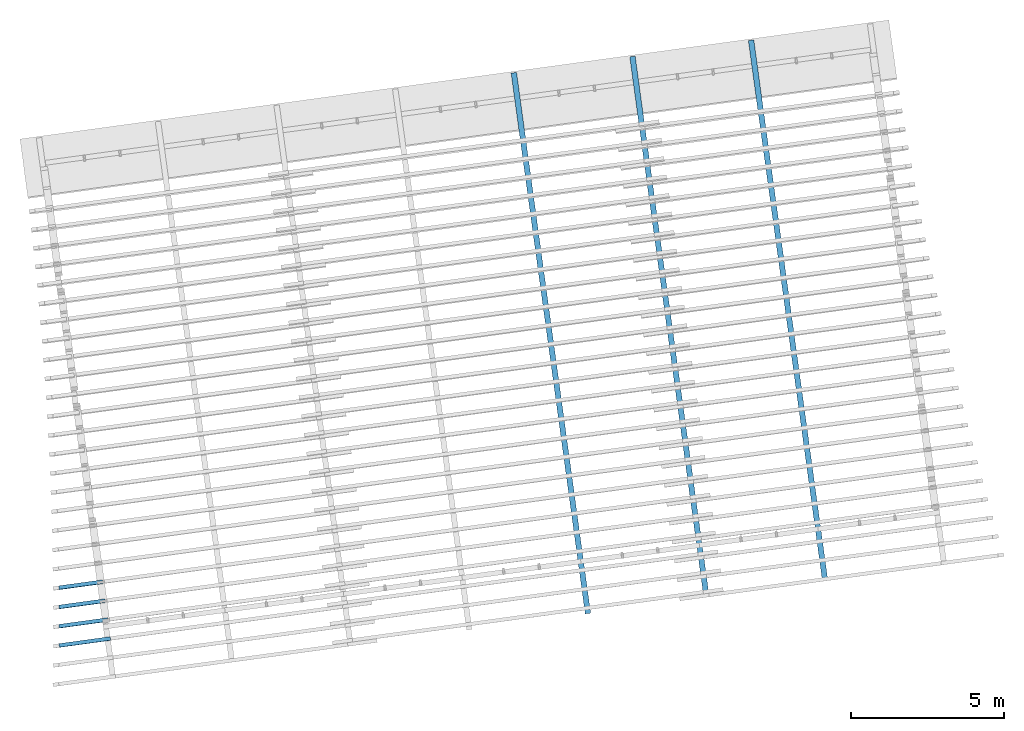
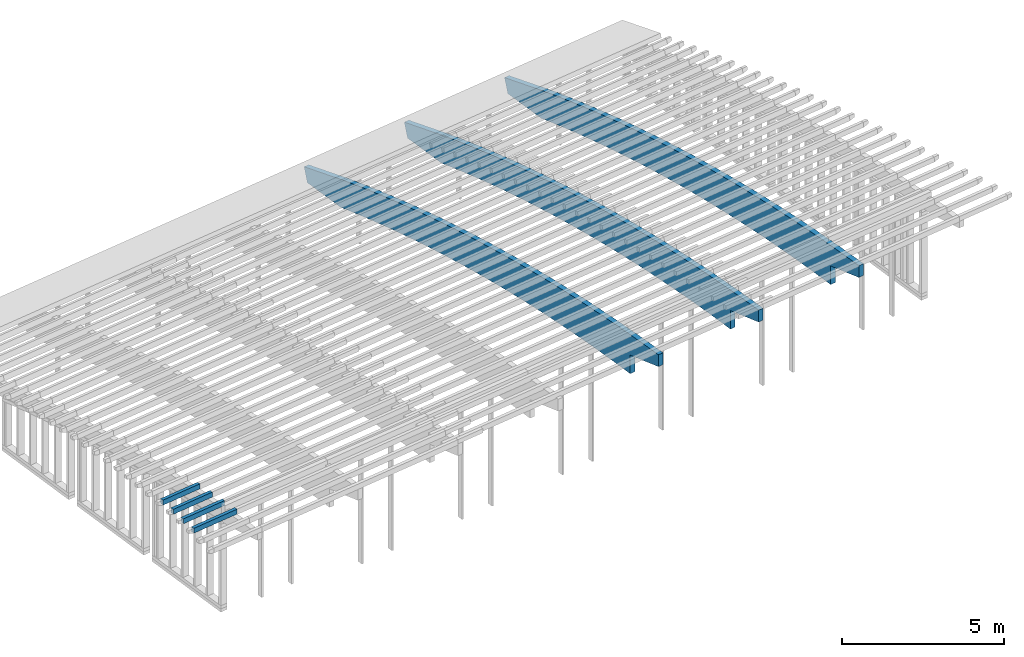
# One storey, part 5 of 18: 4 building element parts, 3 slabs, 4 elements without a shape of their own.
"""IFC2X3 building model written with IfcOpenShell, lengths in metres."""

import ifcopenshell
import ifcopenshell.guid

model = None  # the IFC model being written
_history = None  # IfcOwnerHistory: only IFC2X3 demands one
_inside = {}  # id of a spatial element -> (the spatial element, [elements in it])
_under = {}  # id of a project, library or spatial element -> (it, [spatial elements below it])
_declared = {}  # id of a project -> (the project, [libraries it declares])
_typed = {}  # id of a type object -> (the type object, [elements of that type])
_made_of = {}  # id of a material, layer set ... -> (it, [elements and type objects made of it])


def new_model(schema):
    """Start an empty IFC model of exactly this schema.

    Asked for "IFC4X3", IfcOpenShell would pick the latest addendum, in which some entities
    have other attributes; the version numbers below select the first issue.
    IFC2X3 requires an IfcOwnerHistory on every rooted entity: one is made here for all.
    """
    global model, _history
    if schema == "IFC4X3":
        model = ifcopenshell.file(schema_version=(4, 3, 0, 0))
    else:
        model = ifcopenshell.file(schema=schema)
    _inside.clear()
    _under.clear()
    _declared.clear()
    _typed.clear()
    _made_of.clear()
    _history = None
    if model.schema == "IFC2X3":
        org = make("IfcOrganization", Name="unknown")
        user = make(
            "IfcPersonAndOrganization",
            ThePerson=make("IfcPerson", FamilyName="unknown"),
            TheOrganization=org,
        )
        app = make(
            "IfcApplication",
            ApplicationDeveloper=org,
            Version="unknown",
            ApplicationFullName="unknown",
            ApplicationIdentifier="unknown",
        )
        _history = make(
            "IfcOwnerHistory",
            OwningUser=user,
            OwningApplication=app,
            ChangeAction="ADDED",
            CreationDate=0,
        )
    return model


def make(cls, **values):
    """One entity of the class cls with the attributes given. An attribute that is None is left unset."""
    return model.create_entity(
        cls, **{name: value for name, value in values.items() if value is not None}
    )


def entity(cls, *values):
    """Any entity or typed value of the class cls, its attributes in the order of the schema. None: left unset."""
    e = model.create_entity(cls)
    for i, value in enumerate(values):
        if value is not None:
            e[i] = value
    return e


def rooted(cls, **values):
    """An entity with a GlobalId (a new one), such as an element, a storey or a relation."""
    return make(cls, GlobalId=ifcopenshell.guid.new(), OwnerHistory=_history, **values)


def si_unit(unit_type, name, prefix=None):
    """IfcSIUnit, for example si_unit("LENGTHUNIT", "METRE", prefix="MILLI")."""
    return make("IfcSIUnit", UnitType=unit_type, Prefix=prefix, Name=name)


def converted_unit(unit_type, name, factor, base, dimensions=None, offset=None):
    """IfcConversionBasedUnit, such as the inch: factor (a typed value) times the base unit."""
    return make(
        "IfcConversionBasedUnit"
        if offset is None
        else "IfcConversionBasedUnitWithOffset",
        ConversionOffset=offset,
        Dimensions=None
        if dimensions is None
        else entity("IfcDimensionalExponents", *dimensions),
        UnitType=unit_type,
        Name=name,
        ConversionFactor=make(
            "IfcMeasureWithUnit", ValueComponent=factor, UnitComponent=base
        ),
    )


def derived_unit(unit_type, elements):
    """IfcDerivedUnit: a product of units, each with its exponent."""
    return make(
        "IfcDerivedUnit",
        Elements=[
            make("IfcDerivedUnitElement", Unit=unit, Exponent=power)
            for unit, power in elements
        ],
        UnitType=unit_type,
    )


def money_unit(currency):
    """IfcMonetaryUnit."""
    return make("IfcMonetaryUnit", Currency=currency)


def assignment(units):
    """IfcUnitAssignment: the units of a project."""
    return None if units is None else make("IfcUnitAssignment", Units=units)


def point(xyz):
    """IfcCartesianPoint."""
    return None if xyz is None else make("IfcCartesianPoint", Coordinates=xyz)


def direction(xyz):
    """IfcDirection."""
    return None if xyz is None else make("IfcDirection", DirectionRatios=xyz)


def frame(location, z_axis=None, x_axis=None):
    """IfcAxis2Placement3D, a coordinate frame: its origin and axes. An axis left out is left unset."""
    return make(
        "IfcAxis2Placement3D",
        Location=point(location),
        Axis=direction(z_axis),
        RefDirection=direction(x_axis),
    )


def origin_with_axes():
    """The frame at (0, 0, 0) with the z axis (0, 0, 1) and the x axis (1, 0, 0) written out."""
    return frame((0.0, 0.0, 0.0), z_axis=(0.0, 0.0, 1.0), x_axis=(1.0, 0.0, 0.0))


def place(relative_to, where):
    """IfcLocalPlacement: puts the frame where relative to a parent placement (None: the world)."""
    return make(
        "IfcLocalPlacement", PlacementRelTo=relative_to, RelativePlacement=where
    )


def context(
    kind, dimensions, precision=None, world=None, true_north=None, identifier=None
):
    """IfcGeometricRepresentationContext, for example the 3D "Model" context."""
    return make(
        "IfcGeometricRepresentationContext",
        ContextIdentifier=identifier,
        ContextType=kind,
        CoordinateSpaceDimension=dimensions,
        Precision=precision,
        WorldCoordinateSystem=world,
        TrueNorth=true_north,
    )


def subcontext(parent, identifier, kind, view, scale=None):
    """IfcGeometricRepresentationSubContext, for example "Body" below "Model"."""
    return make(
        "IfcGeometricRepresentationSubContext",
        ContextIdentifier=identifier,
        ContextType=kind,
        ParentContext=parent,
        TargetScale=scale,
        TargetView=view,
    )


def project(units=None, contexts=None):
    """IfcProject with its units and contexts."""
    return rooted(
        "IfcProject",
        Name="project",
        RepresentationContexts=contexts,
        UnitsInContext=assignment(units),
    )


def spatial(cls, under=None, at=None, **own):
    """A site, building, storey or space (cls), placed at a placement, below another one or the project."""
    s = rooted(cls, ObjectPlacement=at, **own)
    if under is not None:
        _under.setdefault(under.id(), (under, []))[1].append(s)
    return s


def faces_of(points, faces, orient=None, outer=None):
    """IfcFace entities. A face is a list of loops; a loop is a list of indices into points, from 0.

    orient and outer hold one flag for each loop. By default every Orientation is true, the
    first loop of a face is its IfcFaceOuterBound and the others are IfcFaceBound.
    """
    made = []
    for i, loops in enumerate(faces):
        bounds = []
        for j, loop in enumerate(loops):
            is_outer = j == 0 if outer is None else outer[i][j]
            bounds.append(
                make(
                    "IfcFaceOuterBound" if is_outer else "IfcFaceBound",
                    Bound=make("IfcPolyLoop", Polygon=[points[k] for k in loop]),
                    Orientation=True if orient is None else orient[i][j],
                )
            )
        made.append(make("IfcFace", Bounds=bounds))
    return made


def faceted_brep(points, faces, orient=None, outer=None, voids=None):
    """IfcFacetedBrep: a solid bounded by flat faces; with voids (closed shells), ...WithVoids."""
    shared = [point(p) for p in points]
    hull = make("IfcClosedShell", CfsFaces=faces_of(shared, faces, orient, outer))
    if voids is None:
        return make("IfcFacetedBrep", Outer=hull)
    return make(
        "IfcFacetedBrepWithVoids",
        Outer=hull,
        Voids=[
            make(cls, CfsFaces=faces_of(shared, fs, o, b)) for cls, fs, o, b in voids
        ],
    )


def shape(context_of_items, identifier, shape_type, items):
    """IfcShapeRepresentation: the items that make up one representation, for example the "Body"."""
    return make(
        "IfcShapeRepresentation",
        ContextOfItems=context_of_items,
        RepresentationIdentifier=identifier,
        RepresentationType=shape_type,
        Items=items,
    )


def material(Name=None, Category=None):
    """IfcMaterial."""
    return make("IfcMaterial", Name=Name, Category=Category)


def made_of(thing, what):
    """Note that an element or type object is made of a material, layer set ...; save() writes the relation."""
    if what is not None:
        _made_of.setdefault(what.id(), (what, []))[1].append(thing)
    return thing


def type_object(cls, material=None, **own):
    """A type object (cls), such as IfcWallType, which elements share."""
    return made_of(rooted(cls, **own), material)


def element(
    cls,
    number,
    at=None,
    inside=None,
    cuts=None,
    type_object=None,
    material=None,
    context=None,
    identifier="Body",
    shape_type=None,
    held_by="IfcProductDefinitionShape",
    body=None,
    shapes=None,
    **own,
):
    """One element of the class cls, such as IfcWall. Its Tag is "e" and its number.

    at: its placement. inside: the storey or other place that contains it. cuts: it is an
    opening in that element (IfcRelVoidsElement). A single representation is given by context,
    identifier, shape_type and body (its items); several are given by shapes. held_by: the class
    of the entity that holds the representations. save() writes the other relations.
    """
    e = rooted(cls, Tag="e%d" % number, ObjectPlacement=at, **own)
    if body is not None:
        shapes = [shape(context, identifier, shape_type, body)]
    if shapes is not None:
        e.Representation = make(held_by, Representations=shapes)
    if inside is not None:
        _inside.setdefault(inside.id(), (inside, []))[1].append(e)
    if cuts is not None:
        rooted(
            "IfcRelVoidsElement", RelatingBuildingElement=cuts, RelatedOpeningElement=e
        )
    if type_object is not None:
        _typed.setdefault(type_object.id(), (type_object, []))[1].append(e)
    return made_of(e, material)


def aggregate(whole, parts):
    """IfcRelAggregates: a whole, such as a stair, and the parts it consists of."""
    return rooted("IfcRelAggregates", RelatingObject=whole, RelatedObjects=parts)


def save(model, path):
    """Write the relations noted so far, then the file.

    IfcRelAggregates (storeys below a building ...), IfcRelContainedInSpatialStructure (elements
    in a storey), IfcRelDefinesByType, IfcRelAssociatesMaterial and IfcRelDeclares: one each for
    every whole, place, type object, material and project.
    """
    for whole, parts in _under.values():
        aggregate(whole, parts)
    for where, things in _inside.values():
        rooted(
            "IfcRelContainedInSpatialStructure",
            RelatedElements=things,
            RelatingStructure=where,
        )
    for kind, things in _typed.values():
        rooted("IfcRelDefinesByType", RelatedObjects=things, RelatingType=kind)
    for what, things in _made_of.values():
        rooted("IfcRelAssociatesMaterial", RelatedObjects=things, RelatingMaterial=what)
    for by, libraries in _declared.values():
        rooted("IfcRelDeclares", RelatingContext=by, RelatedDefinitions=libraries)
    model.write(path)


model = new_model("IFC2X3")

# Units and contexts
model_context = context("Model", 3, precision=1e-05, world=origin_with_axes(), true_north=direction((0.0, 1.0)))
body_context = subcontext(model_context, "Body", "Model", "MODEL_VIEW")
ifc_project = project(units=[si_unit("LENGTHUNIT", "METRE"), si_unit("AREAUNIT", "SQUARE_METRE"), si_unit("VOLUMEUNIT", "CUBIC_METRE"), converted_unit("PLANEANGLEUNIT", "DEGREE", entity("IfcPlaneAngleMeasure", 0.0174532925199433), si_unit("PLANEANGLEUNIT", "RADIAN"), dimensions=[0, 0, 0, 0, 0, 0, 0]), money_unit("EUR"), converted_unit("TIMEUNIT", "Year", entity("IfcTimeMeasure", 31557600.0), si_unit("TIMEUNIT", "SECOND"), dimensions=[0, 0, 1, 0, 0, 0, 0]), si_unit("MASSUNIT", "GRAM", prefix="KILO"), si_unit("THERMODYNAMICTEMPERATUREUNIT", "DEGREE_CELSIUS"), si_unit("LUMINOUSINTENSITYUNIT", "LUMEN"), si_unit("ENERGYUNIT", "JOULE", prefix="MEGA"), derived_unit("THERMALCONDUCTANCEUNIT", [(si_unit("POWERUNIT", "WATT"), 1), (si_unit("LENGTHUNIT", "METRE"), -1), (si_unit("THERMODYNAMICTEMPERATUREUNIT", "KELVIN"), -1)]), derived_unit("SPECIFICHEATCAPACITYUNIT", [(si_unit("ENERGYUNIT", "JOULE"), 1), (si_unit("MASSUNIT", "GRAM", prefix="KILO"), -1), (si_unit("THERMODYNAMICTEMPERATUREUNIT", "KELVIN"), -1)]), derived_unit("MASSDENSITYUNIT", [(si_unit("MASSUNIT", "GRAM", prefix="KILO"), 1), (si_unit("VOLUMEUNIT", "CUBIC_METRE"), -1)])], contexts=[model_context])

# Site, building, storey
site_placement = place(None, origin_with_axes())
site = spatial("IfcSite", under=ifc_project, at=site_placement, Name="Gelände", CompositionType="ELEMENT")
building_placement = place(site_placement, origin_with_axes())
building = spatial("IfcBuilding", under=site, at=building_placement, Name="Gebäude", CompositionType="ELEMENT")
storey_placement = place(building_placement, frame((0.0, 0.0, 5.5), z_axis=(0.0, 0.0, 1.0), x_axis=(1.0, 0.0, 0.0)))
storey = spatial("IfcBuildingStorey", under=building, at=storey_placement, Name="OG", CompositionType="ELEMENT", Elevation=5.5)

# Slabs
ifc_material_1 = material(Name="Holz, Brettschichtholz")
slab_type = type_object("IfcSlabType", Name="Holz, Brettschichtholz", PredefinedType="FLOOR")
slab_1_placement = place(storey_placement, frame((95.37336688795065, -23.81520264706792, 163.5688041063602), z_axis=(-0.9907484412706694, -0.1357111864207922, 0.0), x_axis=(0.1344556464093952, -0.9815824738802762, -0.1357111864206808)))
element("IfcSlab", 1, at=slab_1_placement, inside=storey, type_object=slab_type, material=ifc_material_1, Name="Decke-018", PredefinedType="FLOOR", context=body_context, shape_type="Brep", body=[
    faceted_brep([(129.8131057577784, -145.7732572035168, 6.320000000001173), (131.4832013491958, -145.5444900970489, 6.320000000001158), (131.4832013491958, -145.5444900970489, 6.500000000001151), (129.8131057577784, -145.7732572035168, 6.50000000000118), (129.5825010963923, -145.2883496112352, 6.320000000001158), (131.4068356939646, -144.4693910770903, 6.32000000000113), (131.4389592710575, -144.4542429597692, 6.320000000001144), (132.1622788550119, -144.1494844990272, 6.320000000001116), (132.8894236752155, -143.8539691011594, 6.320000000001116), (133.6202756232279, -143.567744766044, 6.320000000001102), (134.3547159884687, -143.2908579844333, 6.320000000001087), (135.0926254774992, -143.0233537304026, 6.320000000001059), (135.8338842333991, -142.7652754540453, 6.320000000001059), (136.5783718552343, -142.5166650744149, 6.320000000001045), (137.3259674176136, -142.2775629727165, 6.320000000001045), (138.0765494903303, -142.0480079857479, 6.320000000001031), (138.8299961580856, -141.8280373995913, 6.320000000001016), (139.5861850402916, -141.6176869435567, 6.320000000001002), (140.3449933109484, -141.4169907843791, 6.320000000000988), (141.1062977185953, -141.2259815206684, 6.320000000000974), (141.8699746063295, -141.0446901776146, 6.320000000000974), (142.6358999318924, -140.8731462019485, 6.320000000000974), (143.4039492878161, -140.7113774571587, 6.320000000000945), (144.1739979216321, -140.5594102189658, 6.320000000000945), (144.9459207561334, -140.4172691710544, 6.320000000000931), (145.7195924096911, -140.2849774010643, 6.320000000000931), (146.4948872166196, -140.1625563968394, 6.320000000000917), (146.8832832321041, -140.1062912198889, 6.320000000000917), (146.9438843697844, -140.5487053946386, 6.320000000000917), (145.585697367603, -141.0897907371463, 6.320000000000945), (145.6807822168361, -141.7839507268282, 6.320000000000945), (145.2350839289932, -141.8450261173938, 6.320000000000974), (145.2351117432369, -141.8452290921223, 6.320000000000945), (144.8608247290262, -141.8982971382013, 6.32000000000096), (144.113346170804, -142.0118746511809, 6.320000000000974), (143.3674369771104, -142.1353574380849, 6.320000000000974), (142.6232287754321, -142.2687238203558, 6.320000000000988), (141.8808528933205, -142.4119503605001, 6.320000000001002), (141.1404403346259, -142.5650118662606, 6.320000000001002), (140.4021217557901, -142.7278813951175, 6.320000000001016), (139.6660274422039, -142.9005302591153, 6.320000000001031), (138.9322872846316, -143.0829280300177, 6.320000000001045), (138.2010307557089, -143.2750425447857, 6.320000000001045), (137.4723868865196, -143.4768399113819, 6.320000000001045), (136.7464842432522, -143.6882845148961, 6.320000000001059), (136.0234509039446, -143.9093390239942, 6.320000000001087), (135.3034144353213, -144.1399643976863, 6.320000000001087), (134.5865018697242, -144.3801198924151, 6.320000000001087), (133.8728396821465, -144.6297630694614, 6.320000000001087), (133.1625537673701, -144.8888498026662, 6.320000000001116), (132.4557694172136, -145.1573342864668, 6.32000000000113), (131.7526112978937, -145.4351690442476, 6.320000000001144), (131.7521814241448, -145.4341018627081, 6.500000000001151), (129.5825010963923, -145.2883496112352, 6.500000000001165), (132.4554403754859, -145.1564850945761, 6.500000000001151), (133.1623099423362, -144.8881948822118, 6.500000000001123), (133.8726664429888, -144.6292781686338, 6.500000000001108), (134.5863855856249, -144.3797802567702, 6.500000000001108), (135.3033424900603, -144.1397448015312, 6.500000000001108), (136.0234117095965, -143.9092138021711, 6.50000000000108), (136.7464672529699, -143.6882275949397, 6.50000000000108), (137.4723826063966, -143.4768248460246, 6.500000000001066), (138.2010307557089, -143.2750425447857, 6.500000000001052), (138.9322842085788, -143.082915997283, 6.500000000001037), (139.6660150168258, -142.9004788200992, 6.500000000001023), (140.4020947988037, -142.7277629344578, 6.500000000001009), (141.140394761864, -142.5647985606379, 6.500000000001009), (141.880785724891, -142.411614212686, 6.500000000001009), (142.6231381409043, -142.2682366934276, 6.500000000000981), (143.3673221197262, -142.1346910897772, 6.500000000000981), (144.1132074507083, -142.0110007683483, 6.500000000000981), (144.860663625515, -141.8971873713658, 6.500000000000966), (145.2351117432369, -141.8452290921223, 6.500000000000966), (145.2350839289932, -141.8450261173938, 6.500000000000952), (145.6807822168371, -141.7839507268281, 6.500000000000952), (145.585697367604, -141.089790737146, 6.500000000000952), (146.9438843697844, -140.5487053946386, 6.500000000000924), (146.8832832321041, -140.106291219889, 6.500000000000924), (146.4950582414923, -140.1636882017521, 6.500000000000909), (145.7197458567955, -140.2859119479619, 6.500000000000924), (144.9460548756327, -140.4180254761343, 6.500000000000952), (144.1741116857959, -140.5600072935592, 6.500000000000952), (143.4040423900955, -140.711834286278, 6.500000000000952), (142.6359727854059, -140.8734817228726, 6.500000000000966), (141.8700283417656, -141.0449232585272, 6.500000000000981), (141.1063341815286, -141.2261309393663, 6.500000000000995), (140.3450150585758, -141.4170752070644, 6.500000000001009), (139.5861953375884, -141.6177249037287, 6.500000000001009), (138.829998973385, -141.8280472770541, 6.500000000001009), (138.0765494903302, -142.0480079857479, 6.500000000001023), (137.3259699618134, -142.2775711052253, 6.500000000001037), (136.578382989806, -142.5166991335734, 6.500000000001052), (135.8339106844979, -142.7653529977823, 6.500000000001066), (135.0926746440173, -143.0234920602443, 6.50000000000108), (134.3547959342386, -143.2910741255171, 6.50000000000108), (133.62039506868, -143.5680554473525, 6.500000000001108), (132.8895919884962, -143.8543907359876, 6.500000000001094), (132.1625060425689, -144.1500331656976, 6.500000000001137), (131.4392559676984, -144.4549343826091, 6.500000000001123), (131.406642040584, -144.4689405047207, 6.500000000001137)], [[[0, 1, 2, 3]], [[0, 4, 5, 6, 7, 8, 9, 10, 11, 12, 13, 14, 15, 16, 17, 18, 19, 20, 21, 22, 23, 24, 25, 26, 27, 28, 29, 30, 31, 32, 33, 34, 35, 36, 37, 38, 39, 40, 41, 42, 43, 44, 45, 46, 47, 48, 49, 50, 51, 1]], [[2, 1, 52]], [[53, 3, 2, 52, 54, 55, 56, 57, 58, 59, 60, 61, 62, 63, 64, 65, 66, 67, 68, 69, 70, 71, 72, 73, 74, 75, 76, 77, 78, 79, 80, 81, 82, 83, 84, 85, 86, 87, 88, 89, 90, 91, 92, 93, 94, 95, 96, 97, 98, 99]], [[4, 0, 3, 53]], [[4, 53, 5]], [[6, 5, 99]], [[7, 6, 98]], [[8, 7, 97]], [[9, 8, 96]], [[10, 9, 95]], [[11, 10, 93]], [[12, 11, 93]], [[12, 92, 13]], [[14, 13, 91, 90]], [[15, 14, 90, 89]], [[16, 15, 89, 88]], [[17, 16, 88]], [[18, 17, 87]], [[19, 18, 86]], [[20, 19, 85]], [[21, 20, 84]], [[22, 21, 83]], [[23, 22, 81]], [[24, 23, 81]], [[24, 80, 25]], [[26, 25, 79]], [[27, 26, 78, 77]], [[76, 28, 27, 77]], [[75, 29, 28, 76]], [[30, 29, 75, 74]], [[31, 30, 74, 73]], [[32, 31, 73, 72]], [[33, 32, 72]], [[34, 33, 71]], [[69, 35, 34]], [[68, 36, 35]], [[37, 36, 68]], [[38, 37, 67]], [[39, 38, 66]], [[40, 39, 65]], [[41, 40, 64]], [[42, 41, 63, 62]], [[61, 43, 42, 62]], [[44, 43, 61]], [[45, 44, 60]], [[46, 45, 59]], [[47, 46, 58]], [[56, 48, 47]], [[49, 48, 55]], [[50, 49, 55]], [[51, 50, 54]], [[1, 51, 52]], [[52, 51, 54]], [[54, 50, 55]], [[48, 56, 55]], [[47, 57, 56]], [[57, 47, 58]], [[58, 46, 59]], [[59, 45, 60]], [[60, 44, 61]], [[63, 41, 64]], [[64, 40, 65]], [[65, 39, 66]], [[66, 38, 67]], [[67, 37, 68]], [[69, 68, 35]], [[34, 70, 69]], [[70, 34, 71]], [[71, 33, 72]], [[78, 26, 79]], [[80, 79, 25]], [[80, 24, 81]], [[22, 82, 81]], [[22, 83, 82]], [[21, 84, 83]], [[20, 85, 84]], [[86, 85, 19]], [[86, 18, 87]], [[87, 17, 88]], [[92, 91, 13]], [[92, 12, 93]], [[10, 94, 93]], [[95, 94, 10]], [[95, 9, 96]], [[96, 8, 97]], [[98, 97, 7]], [[98, 6, 99]], [[5, 53, 99]]]),
])
slab_2_placement = place(storey_placement, frame((99.25143935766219, -23.28399028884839, 163.5688041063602), z_axis=(-0.9907484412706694, -0.1357111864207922, 0.0), x_axis=(0.1344556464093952, -0.9815824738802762, -0.1357111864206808)))
element("IfcSlab", 2, at=slab_2_placement, inside=storey, type_object=slab_type, material=ifc_material_1, Name="Decke-018", PredefinedType="FLOOR", context=body_context, shape_type="Brep", body=[
    faceted_brep([(129.8131057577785, -145.7732572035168, 6.320000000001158), (131.4832013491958, -145.5444900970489, 6.320000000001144), (131.4832013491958, -145.5444900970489, 6.500000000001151), (129.8131057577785, -145.7732572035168, 6.500000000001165), (129.5825010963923, -145.2883496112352, 6.320000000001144), (131.4068356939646, -144.4693910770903, 6.320000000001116), (131.4389592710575, -144.4542429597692, 6.320000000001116), (132.1622788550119, -144.1494844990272, 6.320000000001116), (132.8894236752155, -143.8539691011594, 6.320000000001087), (133.6202756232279, -143.567744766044, 6.320000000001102), (134.3547159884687, -143.2908579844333, 6.320000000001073), (135.0926254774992, -143.0233537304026, 6.320000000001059), (135.8338842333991, -142.7652754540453, 6.320000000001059), (136.5783718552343, -142.5166650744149, 6.320000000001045), (137.3259674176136, -142.2775629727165, 6.320000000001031), (138.0765494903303, -142.0480079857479, 6.320000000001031), (138.8299961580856, -141.8280373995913, 6.320000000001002), (139.5861850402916, -141.6176869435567, 6.320000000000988), (140.3449933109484, -141.4169907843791, 6.320000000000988), (141.1062977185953, -141.2259815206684, 6.320000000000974), (141.8699746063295, -141.0446901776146, 6.32000000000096), (142.6358999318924, -140.8731462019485, 6.32000000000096), (143.4039492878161, -140.7113774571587, 6.32000000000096), (144.1739979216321, -140.5594102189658, 6.320000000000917), (144.9459207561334, -140.4172691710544, 6.320000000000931), (145.7195924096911, -140.2849774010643, 6.320000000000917), (146.4948872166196, -140.1625563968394, 6.320000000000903), (146.8832832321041, -140.1062912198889, 6.320000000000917), (146.9438843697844, -140.5487053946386, 6.320000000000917), (145.5856973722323, -141.089790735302, 6.320000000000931), (145.6807822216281, -141.7839507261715, 6.320000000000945), (145.2350839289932, -141.8450261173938, 6.320000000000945), (145.2351117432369, -141.8452290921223, 6.320000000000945), (144.8608247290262, -141.8982971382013, 6.320000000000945), (144.113346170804, -142.0118746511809, 6.32000000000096), (143.3674369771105, -142.1353574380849, 6.320000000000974), (142.6232287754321, -142.2687238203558, 6.320000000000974), (141.8808528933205, -142.4119503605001, 6.320000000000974), (141.1404403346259, -142.5650118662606, 6.320000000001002), (140.4021217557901, -142.7278813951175, 6.320000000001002), (139.666027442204, -142.9005302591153, 6.320000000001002), (138.9322872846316, -143.0829280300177, 6.320000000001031), (138.201030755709, -143.2750425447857, 6.320000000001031), (137.4723868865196, -143.4768399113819, 6.320000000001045), (136.7464842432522, -143.6882845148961, 6.320000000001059), (136.0234509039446, -143.9093390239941, 6.320000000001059), (135.3034144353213, -144.1399643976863, 6.320000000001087), (134.5865018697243, -144.3801198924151, 6.320000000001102), (133.8728396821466, -144.6297630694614, 6.320000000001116), (133.1625537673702, -144.8888498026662, 6.320000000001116), (132.4557694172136, -145.1573342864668, 6.320000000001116), (131.7526112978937, -145.4351690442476, 6.320000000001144), (131.7521814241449, -145.4341018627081, 6.500000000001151), (129.5825010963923, -145.2883496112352, 6.500000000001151), (132.455440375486, -145.1564850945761, 6.500000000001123), (133.1623099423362, -144.8881948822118, 6.500000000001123), (133.8726664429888, -144.6292781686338, 6.500000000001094), (134.5863855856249, -144.3797802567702, 6.500000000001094), (135.3033424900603, -144.1397448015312, 6.500000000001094), (136.0234117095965, -143.9092138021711, 6.500000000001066), (136.7464672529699, -143.6882275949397, 6.500000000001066), (137.4723826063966, -143.4768248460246, 6.500000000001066), (138.2010307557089, -143.2750425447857, 6.500000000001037), (138.9322842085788, -143.082915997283, 6.500000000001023), (139.6660150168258, -142.9004788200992, 6.500000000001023), (140.4020947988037, -142.7277629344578, 6.500000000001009), (141.1403947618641, -142.5647985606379, 6.500000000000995), (141.880785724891, -142.411614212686, 6.500000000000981), (142.6231381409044, -142.2682366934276, 6.500000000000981), (143.3673221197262, -142.1346910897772, 6.500000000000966), (144.1132074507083, -142.0110007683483, 6.500000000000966), (144.8606636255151, -141.8971873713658, 6.500000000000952), (145.2351117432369, -141.8452290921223, 6.500000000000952), (145.2350839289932, -141.8450261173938, 6.500000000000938), (145.6807822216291, -141.7839507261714, 6.500000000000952), (145.5856973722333, -141.0897907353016, 6.500000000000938), (146.9438843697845, -140.5487053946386, 6.500000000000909), (146.8832832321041, -140.106291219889, 6.500000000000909), (146.4950582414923, -140.1636882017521, 6.500000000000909), (145.7197458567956, -140.2859119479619, 6.500000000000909), (144.9460548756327, -140.4180254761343, 6.500000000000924), (144.1741116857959, -140.5600072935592, 6.500000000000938), (143.4040423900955, -140.711834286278, 6.500000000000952), (142.6359727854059, -140.8734817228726, 6.500000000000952), (141.8700283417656, -141.0449232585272, 6.500000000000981), (141.1063341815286, -141.2261309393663, 6.500000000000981), (140.3450150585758, -141.4170752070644, 6.500000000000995), (139.5861953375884, -141.6177249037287, 6.500000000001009), (138.8299989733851, -141.8280472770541, 6.500000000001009), (138.0765494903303, -142.0480079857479, 6.500000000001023), (137.3259699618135, -142.2775711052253, 6.500000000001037), (136.5783829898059, -142.5166991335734, 6.500000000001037), (135.8339106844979, -142.7653529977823, 6.500000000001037), (135.0926746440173, -143.0234920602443, 6.500000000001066), (134.3547959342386, -143.2910741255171, 6.50000000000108), (133.62039506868, -143.5680554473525, 6.500000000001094), (132.8895919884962, -143.8543907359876, 6.500000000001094), (132.1625060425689, -144.1500331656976, 6.500000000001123), (131.4392559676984, -144.4549343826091, 6.500000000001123), (131.406642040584, -144.4689405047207, 6.500000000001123)], [[[0, 1, 2, 3]], [[0, 4, 5, 6, 7, 8, 9, 10, 11, 12, 13, 14, 15, 16, 17, 18, 19, 20, 21, 22, 23, 24, 25, 26, 27, 28, 29, 30, 31, 32, 33, 34, 35, 36, 37, 38, 39, 40, 41, 42, 43, 44, 45, 46, 47, 48, 49, 50, 51, 1]], [[2, 1, 52]], [[53, 3, 2, 52, 54, 55, 56, 57, 58, 59, 60, 61, 62, 63, 64, 65, 66, 67, 68, 69, 70, 71, 72, 73, 74, 75, 76, 77, 78, 79, 80, 81, 82, 83, 84, 85, 86, 87, 88, 89, 90, 91, 92, 93, 94, 95, 96, 97, 98, 99]], [[4, 0, 3, 53]], [[4, 53, 5]], [[6, 5, 99]], [[7, 6, 98]], [[8, 7, 97]], [[9, 8, 96]], [[10, 9, 95]], [[11, 10, 93]], [[12, 11, 93]], [[12, 92, 13]], [[14, 13, 91, 90]], [[15, 14, 90, 89]], [[16, 15, 89, 88]], [[17, 16, 88]], [[18, 17, 87]], [[19, 18, 86]], [[20, 19, 85]], [[21, 20, 84]], [[22, 21, 83]], [[23, 22, 81]], [[24, 23, 81]], [[24, 80, 25]], [[26, 25, 79]], [[27, 26, 78, 77]], [[76, 28, 27, 77]], [[75, 29, 28, 76]], [[30, 29, 75, 74]], [[31, 30, 74, 73]], [[32, 31, 73, 72]], [[33, 32, 72]], [[34, 33, 71]], [[69, 35, 34]], [[68, 36, 35]], [[37, 36, 68]], [[38, 37, 67]], [[39, 38, 66]], [[40, 39, 65]], [[41, 40, 64]], [[42, 41, 63, 62]], [[61, 43, 42, 62]], [[44, 43, 61]], [[45, 44, 60]], [[46, 45, 59]], [[47, 46, 58]], [[56, 48, 47]], [[49, 48, 55]], [[50, 49, 55]], [[51, 50, 54]], [[1, 51, 52]], [[52, 51, 54]], [[54, 50, 55]], [[48, 56, 55]], [[47, 57, 56]], [[57, 47, 58]], [[58, 46, 59]], [[59, 45, 60]], [[60, 44, 61]], [[63, 41, 64]], [[64, 40, 65]], [[65, 39, 66]], [[66, 38, 67]], [[67, 37, 68]], [[69, 68, 35]], [[34, 70, 69]], [[70, 34, 71]], [[71, 33, 72]], [[78, 26, 79]], [[80, 79, 25]], [[80, 24, 81]], [[22, 82, 81]], [[22, 83, 82]], [[21, 84, 83]], [[20, 85, 84]], [[86, 85, 19]], [[86, 18, 87]], [[87, 17, 88]], [[92, 91, 13]], [[92, 12, 93]], [[10, 94, 93]], [[95, 94, 10]], [[95, 9, 96]], [[96, 8, 97]], [[98, 97, 7]], [[98, 6, 99]], [[5, 53, 99]]]),
])
slab_3_placement = place(storey_placement, frame((91.495294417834, -24.34641500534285, 163.5688041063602), z_axis=(-0.9907484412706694, -0.1357111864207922, 0.0), x_axis=(0.1344556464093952, -0.9815824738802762, -0.1357111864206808)))
element("IfcSlab", 3, at=slab_3_placement, inside=storey, type_object=slab_type, material=ifc_material_1, Name="Decke-018", PredefinedType="FLOOR", context=body_context, shape_type="Brep", body=[
    faceted_brep([(129.8131057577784, -145.7732572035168, 6.320000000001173), (131.4832013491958, -145.5444900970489, 6.320000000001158), (131.4832013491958, -145.5444900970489, 6.500000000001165), (129.8131057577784, -145.7732572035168, 6.50000000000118), (129.5825010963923, -145.2883496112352, 6.320000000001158), (131.4068356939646, -144.4693910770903, 6.32000000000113), (131.4389592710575, -144.4542429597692, 6.32000000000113), (132.1622788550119, -144.1494844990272, 6.320000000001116), (132.8894236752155, -143.8539691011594, 6.320000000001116), (133.6202756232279, -143.5677447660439, 6.320000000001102), (134.3547159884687, -143.2908579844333, 6.320000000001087), (135.0926254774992, -143.0233537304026, 6.320000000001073), (135.8338842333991, -142.7652754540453, 6.320000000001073), (136.5783718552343, -142.5166650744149, 6.320000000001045), (137.3259674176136, -142.2775629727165, 6.320000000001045), (138.0765494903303, -142.0480079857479, 6.320000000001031), (138.8299961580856, -141.8280373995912, 6.320000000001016), (139.5861850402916, -141.6176869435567, 6.320000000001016), (140.3449933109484, -141.4169907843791, 6.320000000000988), (141.1062977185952, -141.2259815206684, 6.320000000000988), (141.8699746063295, -141.0446901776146, 6.320000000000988), (142.6358999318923, -140.8731462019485, 6.320000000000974), (143.4039492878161, -140.7113774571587, 6.320000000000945), (144.1739979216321, -140.5594102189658, 6.320000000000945), (144.9459207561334, -140.4172691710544, 6.320000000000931), (145.7195924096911, -140.2849774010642, 6.320000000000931), (146.4948872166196, -140.1625563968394, 6.320000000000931), (146.8832832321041, -140.1062912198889, 6.320000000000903), (146.9438843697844, -140.5487053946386, 6.320000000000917), (145.5856973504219, -141.089790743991, 6.320000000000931), (145.6807821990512, -141.7839507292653, 6.32000000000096), (145.2350839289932, -141.8450261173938, 6.32000000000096), (145.2351117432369, -141.8452290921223, 6.320000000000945), (144.8608247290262, -141.8982971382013, 6.32000000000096), (144.113346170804, -142.0118746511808, 6.320000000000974), (143.3674369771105, -142.1353574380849, 6.320000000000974), (142.6232287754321, -142.2687238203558, 6.320000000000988), (141.8808528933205, -142.4119503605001, 6.320000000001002), (141.1404403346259, -142.5650118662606, 6.320000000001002), (140.4021217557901, -142.7278813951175, 6.320000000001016), (139.666027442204, -142.9005302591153, 6.320000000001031), (138.9322872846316, -143.0829280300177, 6.320000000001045), (138.201030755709, -143.2750425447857, 6.320000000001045), (137.4723868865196, -143.4768399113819, 6.320000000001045), (136.7464842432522, -143.6882845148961, 6.320000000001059), (136.0234509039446, -143.9093390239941, 6.320000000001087), (135.3034144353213, -144.1399643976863, 6.320000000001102), (134.5865018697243, -144.3801198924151, 6.320000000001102), (133.8728396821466, -144.6297630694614, 6.320000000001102), (133.1625537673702, -144.8888498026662, 6.32000000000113), (132.4557694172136, -145.1573342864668, 6.32000000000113), (131.7526112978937, -145.4351690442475, 6.320000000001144), (131.7521814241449, -145.4341018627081, 6.500000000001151), (129.5825010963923, -145.2883496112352, 6.500000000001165), (132.4554403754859, -145.1564850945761, 6.500000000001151), (133.1623099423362, -144.8881948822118, 6.500000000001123), (133.8726664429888, -144.6292781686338, 6.500000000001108), (134.5863855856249, -144.3797802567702, 6.500000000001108), (135.3033424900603, -144.1397448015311, 6.500000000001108), (136.0234117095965, -143.909213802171, 6.50000000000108), (136.7464672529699, -143.6882275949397, 6.50000000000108), (137.4723826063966, -143.4768248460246, 6.500000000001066), (138.2010307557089, -143.2750425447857, 6.500000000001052), (138.9322842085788, -143.082915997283, 6.500000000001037), (139.6660150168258, -142.9004788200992, 6.500000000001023), (140.4020947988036, -142.7277629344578, 6.500000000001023), (141.140394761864, -142.5647985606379, 6.500000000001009), (141.880785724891, -142.411614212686, 6.500000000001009), (142.6231381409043, -142.2682366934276, 6.500000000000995), (143.3673221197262, -142.1346910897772, 6.500000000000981), (144.1132074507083, -142.0110007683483, 6.500000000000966), (144.8606636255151, -141.8971873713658, 6.500000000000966), (145.2351117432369, -141.8452290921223, 6.500000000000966), (145.2350839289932, -141.8450261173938, 6.500000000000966), (145.6807821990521, -141.7839507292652, 6.500000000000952), (145.5856973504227, -141.0897907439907, 6.500000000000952), (146.9438843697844, -140.5487053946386, 6.500000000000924), (146.8832832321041, -140.106291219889, 6.500000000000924), (146.4950582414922, -140.1636882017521, 6.500000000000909), (145.7197458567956, -140.2859119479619, 6.500000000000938), (144.9460548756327, -140.4180254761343, 6.500000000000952), (144.1741116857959, -140.5600072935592, 6.500000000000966), (143.4040423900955, -140.711834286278, 6.500000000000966), (142.6359727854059, -140.8734817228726, 6.500000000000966), (141.8700283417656, -141.0449232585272, 6.500000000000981), (141.1063341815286, -141.2261309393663, 6.500000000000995), (140.3450150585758, -141.4170752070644, 6.500000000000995), (139.5861953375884, -141.6177249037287, 6.500000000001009), (138.8299989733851, -141.8280472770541, 6.500000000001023), (138.0765494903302, -142.0480079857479, 6.500000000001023), (137.3259699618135, -142.2775711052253, 6.500000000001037), (136.5783829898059, -142.5166991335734, 6.500000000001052), (135.8339106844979, -142.7653529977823, 6.500000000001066), (135.0926746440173, -143.0234920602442, 6.50000000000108), (134.3547959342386, -143.291074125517, 6.50000000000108), (133.62039506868, -143.5680554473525, 6.500000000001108), (132.8895919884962, -143.8543907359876, 6.500000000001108), (132.1625060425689, -144.1500331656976, 6.500000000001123), (131.4392559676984, -144.4549343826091, 6.500000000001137), (131.406642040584, -144.4689405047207, 6.500000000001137)], [[[0, 1, 2, 3]], [[0, 4, 5, 6, 7, 8, 9, 10, 11, 12, 13, 14, 15, 16, 17, 18, 19, 20, 21, 22, 23, 24, 25, 26, 27, 28, 29, 30, 31, 32, 33, 34, 35, 36, 37, 38, 39, 40, 41, 42, 43, 44, 45, 46, 47, 48, 49, 50, 51, 1]], [[2, 1, 52]], [[53, 3, 2, 52, 54, 55, 56, 57, 58, 59, 60, 61, 62, 63, 64, 65, 66, 67, 68, 69, 70, 71, 72, 73, 74, 75, 76, 77, 78, 79, 80, 81, 82, 83, 84, 85, 86, 87, 88, 89, 90, 91, 92, 93, 94, 95, 96, 97, 98, 99]], [[4, 0, 3, 53]], [[4, 53, 5]], [[6, 5, 99]], [[7, 6, 98]], [[8, 7, 97]], [[9, 8, 96]], [[10, 9, 95]], [[11, 10, 93]], [[12, 11, 93]], [[12, 92, 13]], [[14, 13, 91, 90]], [[15, 14, 90, 89]], [[16, 15, 89, 88]], [[17, 16, 88]], [[18, 17, 87]], [[19, 18, 86]], [[20, 19, 85]], [[21, 20, 84]], [[22, 21, 83]], [[23, 22, 81]], [[24, 23, 81]], [[24, 80, 25]], [[26, 25, 79]], [[27, 26, 78, 77]], [[76, 28, 27, 77]], [[75, 29, 28, 76]], [[30, 29, 75, 74]], [[31, 30, 74, 73]], [[32, 31, 73, 72]], [[33, 32, 72]], [[34, 33, 71]], [[69, 35, 34]], [[68, 36, 35]], [[37, 36, 68]], [[38, 37, 67]], [[39, 38, 66]], [[40, 39, 65]], [[41, 40, 64]], [[42, 41, 63, 62]], [[61, 43, 42, 62]], [[44, 43, 61]], [[45, 44, 60]], [[46, 45, 59]], [[47, 46, 58]], [[56, 48, 47]], [[49, 48, 55]], [[50, 49, 55]], [[51, 50, 54]], [[1, 51, 52]], [[52, 51, 54]], [[54, 50, 55]], [[48, 56, 55]], [[47, 57, 56]], [[57, 47, 58]], [[58, 46, 59]], [[59, 45, 60]], [[60, 44, 61]], [[63, 41, 64]], [[64, 40, 65]], [[65, 39, 66]], [[66, 38, 67]], [[67, 37, 68]], [[69, 68, 35]], [[34, 70, 69]], [[70, 34, 71]], [[71, 33, 72]], [[78, 26, 79]], [[80, 79, 25]], [[80, 24, 81]], [[22, 82, 81]], [[22, 83, 82]], [[21, 84, 83]], [[20, 85, 84]], [[86, 85, 19]], [[86, 18, 87]], [[87, 17, 88]], [[92, 91, 13]], [[92, 12, 93]], [[10, 94, 93]], [[95, 94, 10]], [[95, 9, 96]], [[96, 8, 97]], [[98, 97, 7]], [[98, 6, 99]], [[5, 53, 99]]]),
])

# Beam, building element part
beam_type_1 = type_object("IfcBeamType", Name="Verschiedene Strukturen - 4 Segmente - 120 x 200 x 10342 (970+7659+1523+190)", PredefinedType="NOTDEFINED")
beam_1_placement = place(storey_placement, frame((95.08032866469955, -148.9629135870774, 4.912074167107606), z_axis=(0.0, 0.0, 1.0), x_axis=(-0.1357111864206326, 0.9907484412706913, 0.0)))
beam_1 = element("IfcBeam", 4, at=beam_1_placement, inside=storey, type_object=beam_type_1, Name="Unterzug-031")
ifc_material_2 = material(Name="Bauholz")
building_element_part_1_placement = place(beam_1_placement, origin_with_axes())
building_element_part_1 = element("IfcBuildingElementPart", 5, at=building_element_part_1_placement, material=ifc_material_2, Name="Bauholz", context=body_context, shape_type="Brep", body=[
    faceted_brep([(0.05992836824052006, 10.15194335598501, -0.002930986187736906), (-0.05992836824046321, 10.151943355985, 0.002930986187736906), (-0.05992836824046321, 8.629156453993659, 0.002930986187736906), (0.05992836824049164, 8.629156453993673, -0.002930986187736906), (0.05113540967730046, 10.151943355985, -0.1827160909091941), (-0.06872132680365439, 10.151943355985, -0.176854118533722), (-0.06872132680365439, 8.629156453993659, -0.176854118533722), (0.05113540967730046, 8.629156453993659, -0.1827160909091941)], [[[0, 1, 2, 3]], [[0, 4, 5, 1]], [[1, 5, 6, 2]], [[3, 2, 6, 7]], [[4, 0, 3, 7]], [[5, 4, 7, 6]]]),
])
aggregate(beam_1, [building_element_part_1])

beam_type_2 = type_object("IfcBeamType", Name="Verschiedene Strukturen - 4 Segmente - 120 x 200 x 10261 (970+7659+1442+190)", PredefinedType="NOTDEFINED")
beam_2_placement = place(storey_placement, frame((94.99560086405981, -148.3443651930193, 4.878264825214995), z_axis=(0.0, 0.0, 1.0), x_axis=(-0.1357111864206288, 0.9907484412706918, 0.0)))
beam_2 = element("IfcBeam", 6, at=beam_2_placement, inside=storey, type_object=beam_type_2, Name="Unterzug-031")
building_element_part_2_placement = place(beam_2_placement, origin_with_axes())
building_element_part_2 = element("IfcBuildingElementPart", 7, at=building_element_part_2_placement, material=ifc_material_2, Name="Bauholz", context=body_context, shape_type="Brep", body=[
    faceted_brep([(-0.0598943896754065, 8.62915645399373, 0.00355838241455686), (0.0598943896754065, 8.629156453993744, -0.00355838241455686), (0.05989438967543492, 10.07111797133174, -0.00355838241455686), (-0.0598943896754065, 10.07111797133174, 0.00355838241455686), (-0.07056953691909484, 8.629156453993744, -0.1761247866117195), (0.049219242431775, 8.62915645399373, -0.183241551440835), (0.04921924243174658, 10.07111797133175, -0.183241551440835), (-0.07056953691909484, 10.07111797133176, -0.1761247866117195)], [[[0, 1, 2, 3]], [[4, 5, 1, 0]], [[1, 5, 6, 2]], [[7, 3, 2, 6]], [[4, 0, 3, 7]], [[5, 4, 7, 6]]]),
])
aggregate(beam_2, [building_element_part_2])

beam_type_3 = type_object("IfcBeamType", Name="Verschiedene Strukturen - 4 Segmente - 120 x 200 x 10509 (970+7659+1690+190)", PredefinedType="NOTDEFINED")
beam_3_placement = place(storey_placement, frame((95.24989773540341, -150.2008387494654, 4.960992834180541), z_axis=(0.0, 0.0, 1.0), x_axis=(-0.1357111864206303, 0.9907484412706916, 0.0)))
beam_3 = element("IfcBeam", 8, at=beam_3_placement, inside=storey, type_object=beam_type_3, Name="Unterzug-031")
building_element_part_3_placement = place(beam_3_placement, origin_with_axes())
building_element_part_3 = element("IfcBuildingElementPart", 9, at=building_element_part_3_placement, material=ifc_material_2, Name="Bauholz", context=body_context, shape_type="Brep", body=[
    faceted_brep([(0.05997481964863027, 8.629164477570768, -0.001738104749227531), (0.05997481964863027, 10.31900000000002, -0.001738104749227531), (-0.05997481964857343, 10.31900000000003, 0.001738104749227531), (-0.05997481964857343, 8.629164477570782, 0.001738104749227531), (0.05476050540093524, 8.629164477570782, -0.1816625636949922), (0.05476050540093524, 10.31900000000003, -0.1816625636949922), (-0.06518913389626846, 10.31900000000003, -0.1781863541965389), (-0.06518913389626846, 8.629164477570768, -0.1781863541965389)], [[[0, 1, 2, 3]], [[4, 5, 1, 0]], [[2, 1, 5, 6]], [[3, 2, 6, 7]], [[4, 0, 3, 7]], [[7, 6, 5, 4]]]),
])
aggregate(beam_3, [building_element_part_3])

beam_type_4 = type_object("IfcBeamType", Name="Verschiedene Strukturen - 4 Segmente - 120 x 200 x 10426 (970+7659+1607+190)", PredefinedType="NOTDEFINED")
beam_4_placement = place(storey_placement, frame((95.1650979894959, -149.5817651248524, 4.939661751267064), z_axis=(0.0, 0.0, 1.0), x_axis=(-0.1357111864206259, 0.9907484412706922, 0.0)))
beam_4 = element("IfcBeam", 10, at=beam_4_placement, inside=storey, type_object=beam_type_4, Name="Unterzug-031")
building_element_part_4_placement = place(beam_4_placement, origin_with_axes())
building_element_part_4 = element("IfcBuildingElementPart", 11, at=building_element_part_4_placement, material=ifc_material_2, Name="Bauholz", context=body_context, shape_type="Brep", body=[
    faceted_brep([(0.05995537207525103, 10.23626930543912, -0.002313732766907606), (0.05995537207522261, 8.80915862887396, -0.002313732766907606), (0.05326841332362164, 8.809158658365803, -0.1755917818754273), (0.05322224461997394, 8.68915865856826, -0.1767881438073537), (0.05995537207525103, 8.689158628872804, -0.002313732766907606), (0.05995537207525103, 8.629156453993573, -0.002313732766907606), (0.05301417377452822, 8.629156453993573, -0.1821798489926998), (0.05301417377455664, 10.23626930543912, -0.1821798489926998), (0.05987830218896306, 8.689158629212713, -0.002310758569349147), (0.05987883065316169, 8.809158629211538, -0.002310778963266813), (-0.05995537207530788, 10.23626930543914, 0.002313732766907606), (-0.05995537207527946, 8.629156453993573, 0.002313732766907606), (-0.06689657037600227, 8.629156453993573, -0.1775523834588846), (-0.06689657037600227, 10.23626930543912, -0.1775523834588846)], [[[0, 1, 2, 3, 4, 5, 6, 7]], [[8, 9, 1, 0, 10, 11, 5, 4]], [[9, 2, 1]], [[8, 3, 2, 9]], [[8, 4, 3]], [[5, 11, 12, 6]], [[13, 7, 6, 12]], [[0, 7, 13, 10]], [[10, 13, 12, 11]]]),
])
aggregate(beam_4, [building_element_part_4])

save(model, "model.ifc")
